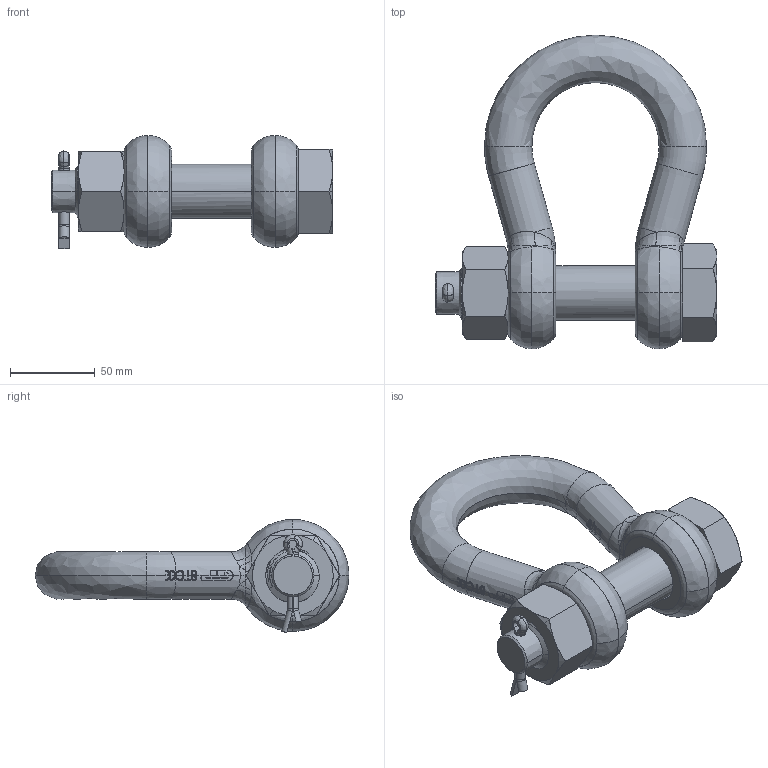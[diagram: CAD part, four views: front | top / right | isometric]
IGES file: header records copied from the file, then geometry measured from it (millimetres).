
Start section: START RECORD GO HERE.
Global section: file name: POGHMB28.igs; native system: Solidworks 2009                             ; preprocessor: Solidworks                 ; author: v.b.; organization: P4; date: 20090826.095223; units: millimetre
Bounding box: 166 x 185 x 66.69 mm (x, y, z)
Surface area: 83908.4 mm2 (no closed solid volume)
Topology: 0 solids, 0 shells, 810 faces, 5267 edges, 5259 vertices
Faces by surface type: bspline 373, plane 252, revolution 185
